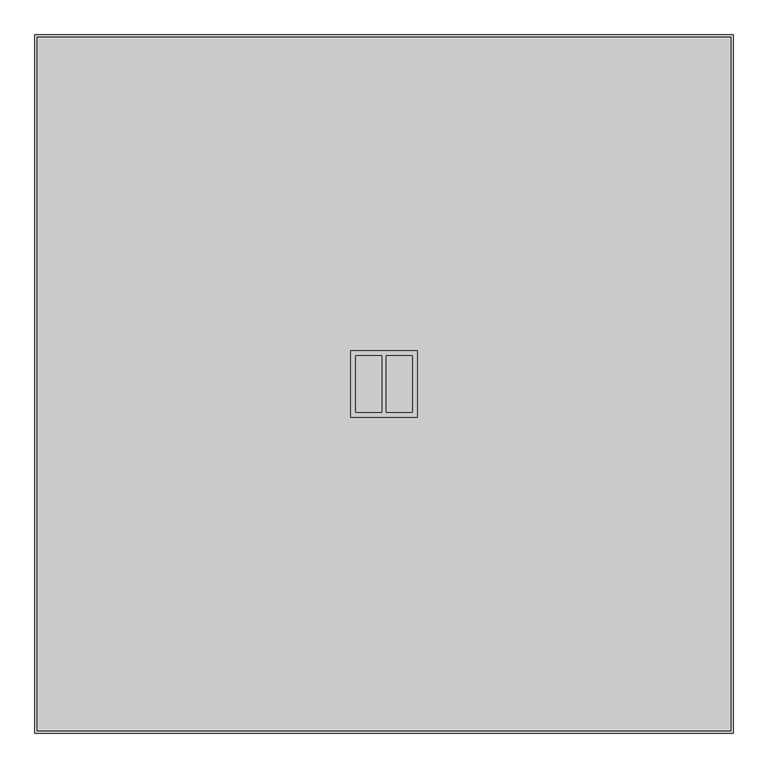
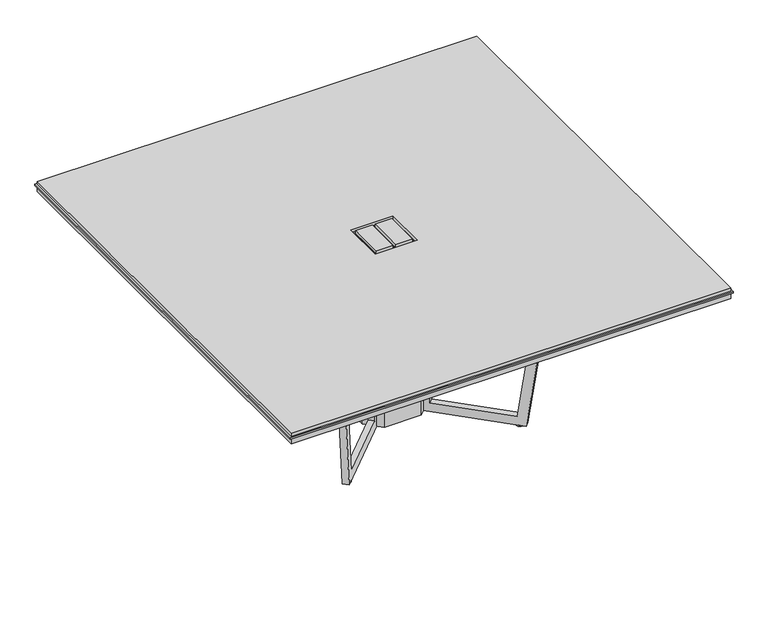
"""IFC4 building model written with IfcOpenShell, lengths in millimetres: furniture geometry, Knoll_Datesweiser_Tables_Meeting_Highline_Square : 72W Corian WireMgmt."""

from ifc_helpers import new_model, si_unit, point, frame, frame_2d, origin, origin_with_axes, place, context, project, spatial, polyline, circle_curve, trimmed, segment, composite_curve, outline, extrude, faceted_brep, source, transform, mapped, element, save


def furniture_aff1c7ed(model_context):
    return source(origin(), model_context, "Body", "SolidModel", [
        extrude(outline(polyline([(914.4, 914.4), (914.4, -914.4), (-914.4, -914.4), (-914.4, 914.4), (914.4, 914.4)])), frame((0.0, 0.0, 698.5), z_axis=(0.0, 0.0, 1.0), x_axis=(1.0, 0.0, 0.0)), (0.0, 0.0, 1.0), 25.4),
        extrude(outline(polyline([(914.4, 914.4), (914.4, -914.4), (-914.4, -914.4), (-914.4, 914.4), (914.4, 914.4)]), holes=[polyline([(-87.3125, -87.3125), (87.3125, -87.3125), (87.3125, 87.3125), (-87.3125, 87.3125), (-87.3125, -87.3125)])]), frame((0.0, 0.0, 730.25), z_axis=(0.0, 0.0, 1.0), x_axis=(1.0, 0.0, 0.0)), (0.0, 0.0, 1.0), 12.7),
        extrude(outline(polyline([(6.35, -74.6125), (6.35, 74.6125), (74.6125, 74.6125), (74.6125, -74.6125), (6.35, -74.6125)])), frame((0.0, 0.0, 730.25), z_axis=(0.0, 0.0, 1.0), x_axis=(1.0, 0.0, 0.0)), (0.0, 0.0, 1.0), 12.7),
        extrude(outline(polyline([(-6.35, 74.6125), (-6.35, -74.6125), (-74.6125, -74.6125), (-74.6125, 74.6125), (-6.35, 74.6125)])), frame((0.0, 0.0, 730.25), z_axis=(0.0, 0.0, 1.0), x_axis=(1.0, 0.0, 0.0)), (0.0, 0.0, 1.0), 12.7),
        extrude(outline(polyline([(920.75, 920.75), (920.75, -920.75), (-920.75, -920.75), (-920.75, 920.75), (920.75, 920.75)]), holes=[polyline([(-87.3125, -87.3125), (87.3125, -87.3125), (87.3125, 87.3125), (-87.3125, 87.3125), (-87.3125, -87.3125)])]), frame((0.0, 0.0, 723.9), z_axis=(0.0, 0.0, 1.0), x_axis=(1.0, 0.0, 0.0)), (0.0, 0.0, 1.0), 6.35),
        extrude(outline(polyline([(6.35, -74.6125), (6.35, 74.6125), (74.6125, 74.6125), (74.6125, -74.6125), (6.35, -74.6125)])), frame((0.0, 0.0, 723.9), z_axis=(0.0, 0.0, 1.0), x_axis=(1.0, 0.0, 0.0)), (0.0, 0.0, 1.0), 6.35),
        extrude(outline(polyline([(-6.35, 74.6125), (-6.35, -74.6125), (-74.6125, -74.6125), (-74.6125, 74.6125), (-6.35, 74.6125)])), frame((0.0, 0.0, 723.9), z_axis=(0.0, 0.0, 1.0), x_axis=(1.0, 0.0, 0.0)), (0.0, 0.0, 1.0), 6.35),
        extrude(outline(composite_curve([segment(trimmed(circle_curve(frame_2d((-357.9481367, -357.9481367)), 12.7), [point((-345.2481367, -357.9481367))], [point((-370.6481367, -357.9481367))], False, "CARTESIAN"), True, "CONTINUOUS"), segment(trimmed(circle_curve(frame_2d((-357.9481367, -357.9481367)), 12.7), [point((-370.6481367, -357.9481367))], [point((-345.2481367, -357.9481367))], False, "CARTESIAN"), True, "CONTINUOUS")], self_intersect=False)), origin_with_axes(), (0.0, 0.0, 1.0), 5.9867797),
        extrude(outline(composite_curve([segment(trimmed(circle_curve(frame_2d((-357.9481367, 357.9481367)), 12.7), [point((-345.2481367, 357.9481367))], [point((-370.6481367, 357.9481367))], False, "CARTESIAN"), True, "CONTINUOUS"), segment(trimmed(circle_curve(frame_2d((-357.9481367, 357.9481367)), 12.7), [point((-370.6481367, 357.9481367))], [point((-345.2481367, 357.9481367))], False, "CARTESIAN"), True, "CONTINUOUS")], self_intersect=False)), origin_with_axes(), (0.0, 0.0, 1.0), 5.9867797),
        extrude(outline(composite_curve([segment(trimmed(circle_curve(frame_2d((357.9481367, -357.9481367)), 12.7), [point((370.6481367, -357.9481367))], [point((345.2481367, -357.9481367))], False, "CARTESIAN"), True, "CONTINUOUS"), segment(trimmed(circle_curve(frame_2d((357.9481367, -357.9481367)), 12.7), [point((345.2481367, -357.9481367))], [point((370.6481367, -357.9481367))], False, "CARTESIAN"), True, "CONTINUOUS")], self_intersect=False)), origin_with_axes(), (0.0, 0.0, 1.0), 5.9867797),
        extrude(outline(composite_curve([segment(trimmed(circle_curve(frame_2d((357.9481367, 357.9481367)), 12.7), [point((370.6481367, 357.9481367))], [point((345.2481367, 357.9481367))], False, "CARTESIAN"), True, "CONTINUOUS"), segment(trimmed(circle_curve(frame_2d((357.9481367, 357.9481367)), 12.7), [point((345.2481367, 357.9481367))], [point((370.6481367, 357.9481367))], False, "CARTESIAN"), True, "CONTINUOUS")], self_intersect=False)), origin_with_axes(), (0.0, 0.0, 1.0), 5.9867797),
        faceted_brep([(-105.5180417, 87.5575295, 698.5000242), (-132.4542329, 114.4937206, 698.5000242), (-132.4542329, 114.4937206, 44.0867803), (-362.731756, 344.7712438, 44.0867803), (-427.7656237, 409.8051114, 698.5000242), (-454.9711667, 437.0106545, 698.5000242), (-386.1246404, 368.1641282, 5.7213276), (-115.3405838, 97.3800716, 6.2173274), (-115.3405838, 97.3800716, 679.2551774), (-105.5179146, 87.5574023, 679.2551774), (368.1641282, -386.1246404, 5.7213276), (437.0106545, -454.9711667, 698.5000242), (409.8051114, -427.7656237, 698.5000242), (344.7712438, -362.731756, 44.0867803), (114.4937206, -132.4542329, 44.0867803), (114.4937206, -132.4542329, 698.5000242), (87.5575295, -105.5180417, 698.5000242), (87.5574023, -105.5179146, 679.2551774), (97.3800716, -115.3405838, 679.2551774), (97.3800716, -115.3405838, 6.2173274), (-368.1641282, 386.1246404, 5.7213276), (-437.0106545, 454.9711667, 698.5000242), (-409.8051114, 427.7656237, 698.5000242), (-344.7712438, 362.731756, 44.0867803), (-114.4937206, 132.4542329, 44.0867803), (-114.4937206, 132.4542329, 698.5000242), (-87.5575295, 105.5180417, 698.5000242), (-87.5574023, 105.5179146, 679.2551774), (-97.3800759, 115.3405882, 679.2551774), (-97.3800759, 115.3405882, 6.2173274), (105.5180417, -87.5575295, 698.5000242), (132.4542329, -114.4937206, 698.5000242), (132.4542329, -114.4937206, 44.0867803), (362.731756, -344.7712438, 44.0867803), (427.7656237, -409.8051114, 698.5000242), (454.9711667, -437.0106545, 698.5000242), (386.1246404, -368.1641282, 5.7213276), (115.3405882, -97.3800759, 6.2173274), (115.3405882, -97.3800759, 679.2551774), (105.5179146, -87.5574023, 679.2551774), (-134.8689207, 77.8517251, 679.2551774), (-134.8689207, -77.8517528, 679.2551774), (-77.8517251, -134.8689207, 679.2551774), (77.8517251, -134.8689207, 679.2551774), (134.8689207, -77.8517528, 679.2551774), (134.8689207, 77.8517251, 679.2551774), (77.8517528, 134.8689207, 679.2551774), (-77.8517528, 134.8689207, 679.2551774), (-134.8689207, 77.8517251, 5.8810183), (-77.8517528, 134.8689207, 5.8810183), (77.8517528, 134.8689207, 5.8810183), (134.8689207, 77.8517251, 5.8810183), (134.8689207, -77.8517528, 5.8810183), (77.8517251, -134.8689207, 5.8810183), (-77.8517251, -134.8689207, 5.8810183), (-134.8689207, -77.8517528, 5.8810183)], [[[0, 1, 2, 3, 4, 5, 6, 7, 8, 9]], [[10, 11, 12, 13, 14, 15, 16, 17, 18, 19]], [[20, 21, 22, 23, 24, 25, 26, 27, 28, 29]], [[30, 31, 32, 33, 34, 35, 36, 37, 38, 39]], [[3, 2, 24, 23]], [[4, 3, 23, 22]], [[5, 4, 22, 21]], [[6, 5, 21, 20]], [[6, 20, 29, 7]], [[26, 0, 9, 27]], [[1, 0, 26, 25]], [[2, 1, 25, 24]], [[36, 10, 19, 37]], [[11, 10, 36, 35]], [[12, 11, 35, 34]], [[13, 12, 34, 33]], [[14, 13, 33, 32]], [[15, 14, 32, 31]], [[16, 15, 31, 30]], [[16, 30, 39, 17]], [[40, 41, 42, 43, 18, 17, 39, 38, 44, 45, 46, 47, 28, 27, 9, 8]], [[48, 49, 50, 51, 52, 53, 54, 55]], [[41, 40, 48, 55]], [[42, 41, 55, 54]], [[43, 42, 54, 53]], [[53, 52, 44, 38, 37, 19, 18, 43]], [[45, 44, 52, 51]], [[46, 45, 51, 50]], [[47, 46, 50, 49]], [[49, 48, 40, 8, 7, 29, 28, 47]]]),
        extrude(outline(polyline([(687.3294598, 0.0), (687.8397529, -396.8441293), (-4.9398532, -494.2013488), (-4.9394938, -455.7269008), (649.4746093, -363.7612365), (649.4776515, -38.0996402), (-4.9355924, -38.0935268), (-4.9352365, 0.0), (687.3294598, 0.0)])), frame((105.5180091, 87.5574969, 693.5647877), z_axis=(-0.7071067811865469, 0.7071067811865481, 0.0), x_axis=(-6.605612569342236e-06, -6.605612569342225e-06, -0.9999999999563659)), (0.0, 0.0, 1.0), 25.4),
        extrude(outline(polyline([(687.3320105, 273.0371574), (-4.9326857, 273.0500913), (-4.9323299, 311.1436182), (649.480914, 311.1375048), (649.4839562, 636.7991012), (-4.9284285, 728.7769922), (-4.928069, 767.2514401), (687.849718, 669.8812771), (687.3320105, 273.0371574)])), frame((105.5180091, 87.5574969, 693.5647877), z_axis=(-0.7071067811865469, 0.7071067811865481, 0.0), x_axis=(-6.605612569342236e-06, -6.605612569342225e-06, -0.9999999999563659)), (0.0, 0.0, 1.0), 25.4),
    ])


if __name__ == "__main__":
    model = new_model("IFC4")
    model_context = context("Model", 3, world=origin())
    ifc_project = project(units=[si_unit("LENGTHUNIT", "METRE", prefix="MILLI")], contexts=[model_context])
    site = spatial("IfcSite", under=ifc_project)
    building = spatial("IfcBuilding", under=site)
    placement = place(None, origin())
    furniture_shape = furniture_aff1c7ed(model_context)
    element("IfcFurniture", 1, ObjectType="Knoll_Datesweiser_Tables_Meeting_Highline_Square : 72W Corian WireMgmt", at=placement, inside=building, context=model_context, shape_type="MappedRepresentation", body=[
        mapped(furniture_shape, transform((0.0, 0.0, 0.0), x_axis=(1.0, 0.0, 0.0), y_axis=(0.0, 1.0, 0.0), z_axis=(0.0, 0.0, 1.0))),
    ])
    save(model, "model.ifc")
